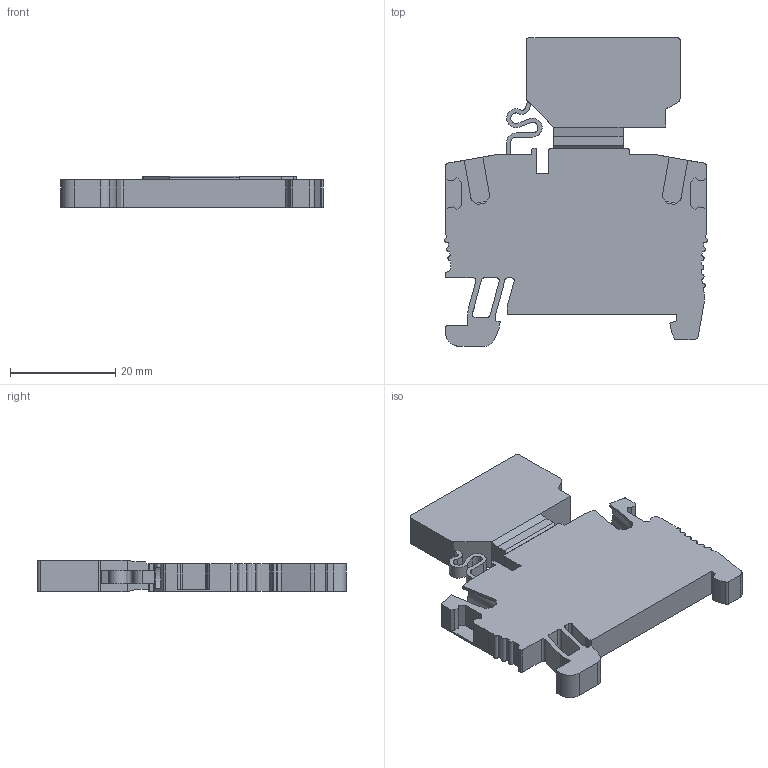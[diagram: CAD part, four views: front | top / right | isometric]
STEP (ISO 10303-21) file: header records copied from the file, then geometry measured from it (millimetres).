
FILE_DESCRIPTION(('Creo Elements/Direct Modeling STEP Export'),'2;1');
FILE_NAME('EFS202GR.stp','2020-02-27T14:02:03',(''),(''),'Creo Elements/Direct Modeling STEP processor for AP214 (Solid Model)','Creo Elements/Direct Modeling 20.2A 23-Sep-2019 (C) Parametric Technology GmbH','');
FILE_SCHEMA(('AUTOMOTIVE_DESIGN { 1 0 10303 214 1 1 1 1 }'));
Length unit declared in the file: millimetre
Products named in the file (2): EFS.202GR
Assembly tree (1 placements, depth 2):
  EFS.202GR
    EFS.202GR
Bounding box: 49.96 x 58.7 x 6 mm (x, y, z)
Volume: 10120.3 mm3; surface area: 6703 mm2
Topology: 1 solids, 2 shells, 233 faces, 663 edges, 441 vertices
Faces by surface type: plane 162, cylinder 71
Entity records: 8066 total; most frequent: ORIENTED_EDGE 1326, CARTESIAN_POINT 1318, DIRECTION 1246, EDGE_CURVE 663, VECTOR 508, LINE 508, VERTEX_POINT 441, AXIS2_PLACEMENT_3D 369
